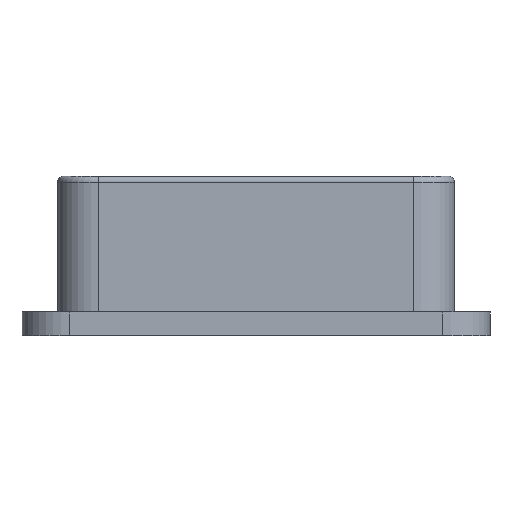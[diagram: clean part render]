
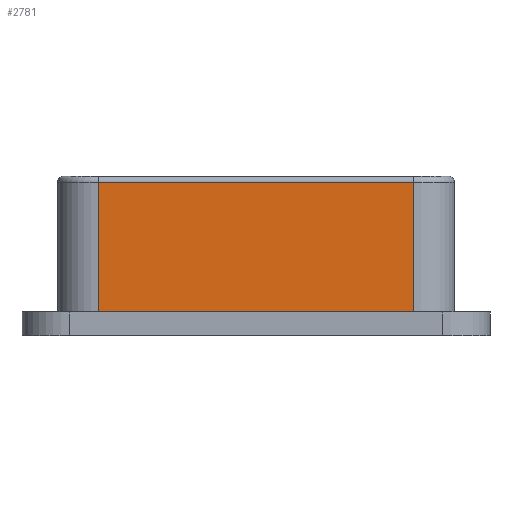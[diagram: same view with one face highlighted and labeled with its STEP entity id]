
A CAD part, front view. The second image highlights one B-rep face of the part: STEP entity #2781.
In plain terms, the highlighted planar face has unit normal (0, -1, 0).
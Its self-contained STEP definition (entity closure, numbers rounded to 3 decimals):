
#771 = PLANE('',#772);
#772 = AXIS2_PLACEMENT_3D('',#773,#774,#775);
#773 = CARTESIAN_POINT('',(-13.8,-8.8,14.8));
#774 = DIRECTION('',(0.,0.,1.));
#775 = DIRECTION('',(1.,0.,0.));
#1272 = VERTEX_POINT('',#1273);
#1273 = CARTESIAN_POINT('',(9.3,-6.7,14.8));
#1288 = CYLINDRICAL_SURFACE('',#1289,2.4);
#1289 = AXIS2_PLACEMENT_3D('',#1290,#1291,#1292);
#1290 = CARTESIAN_POINT('',(9.3,-4.3,13.4));
#1291 = DIRECTION('',(0.,0.,1.));
#1292 = DIRECTION('',(1.,0.,-0.));
#1300 = EDGE_CURVE('',#1301,#1272,#1303,.T.);
#1301 = VERTEX_POINT('',#1302);
#1302 = CARTESIAN_POINT('',(-9.3,-6.7,14.8));
#1303 = SURFACE_CURVE('',#1304,(#1308,#1314),.PCURVE_S1.);
#1304 = LINE('',#1305,#1306);
#1305 = CARTESIAN_POINT('',(-12.75,-6.7,14.8));
#1306 = VECTOR('',#1307,1.);
#1307 = DIRECTION('',(1.,0.,0.));
#1308 = PCURVE('',#771,#1309);
#1309 = DEFINITIONAL_REPRESENTATION('',(#1310),#1313);
#1310 = B_SPLINE_CURVE_WITH_KNOTS('',1,(#1311,#1312),.UNSPECIFIED.,.F.,
  .F.,(2,2),(3.45,22.05),.PIECEWISE_BEZIER_KNOTS.);
#1311 = CARTESIAN_POINT('',(4.5,2.1));
#1312 = CARTESIAN_POINT('',(23.1,2.1));
#1313 = ( GEOMETRIC_REPRESENTATION_CONTEXT(2) 
PARAMETRIC_REPRESENTATION_CONTEXT() REPRESENTATION_CONTEXT('2D SPACE',''
  ) );
#1314 = PCURVE('',#1315,#1320);
#1315 = PLANE('',#1316);
#1316 = AXIS2_PLACEMENT_3D('',#1317,#1318,#1319);
#1317 = CARTESIAN_POINT('',(-11.7,-6.7,13.4));
#1318 = DIRECTION('',(0.,1.,0.));
#1319 = DIRECTION('',(0.,0.,1.));
#1320 = DEFINITIONAL_REPRESENTATION('',(#1321),#1324);
#1321 = B_SPLINE_CURVE_WITH_KNOTS('',1,(#1322,#1323),.UNSPECIFIED.,.F.,
  .F.,(2,2),(3.45,22.05),.PIECEWISE_BEZIER_KNOTS.);
#1322 = CARTESIAN_POINT('',(1.4,2.4));
#1323 = CARTESIAN_POINT('',(1.4,21.));
#1324 = ( GEOMETRIC_REPRESENTATION_CONTEXT(2) 
PARAMETRIC_REPRESENTATION_CONTEXT() REPRESENTATION_CONTEXT('2D SPACE',''
  ) );
#1341 = CYLINDRICAL_SURFACE('',#1342,2.4);
#1342 = AXIS2_PLACEMENT_3D('',#1343,#1344,#1345);
#1343 = CARTESIAN_POINT('',(-9.3,-4.3,13.4));
#1344 = DIRECTION('',(0.,0.,1.));
#1345 = DIRECTION('',(-1.,-0.,0.));
#1755 = VERTEX_POINT('',#1756);
#1756 = CARTESIAN_POINT('',(9.3,-6.7,22.45));
#1794 = CYLINDRICAL_SURFACE('',#1795,0.35);
#1795 = AXIS2_PLACEMENT_3D('',#1796,#1797,#1798);
#1796 = CARTESIAN_POINT('',(9.3,-6.35,22.45));
#1797 = DIRECTION('',(-1.,-0.,-0.));
#1798 = DIRECTION('',(0.,-1.,0.));
#1859 = VERTEX_POINT('',#1860);
#1860 = CARTESIAN_POINT('',(-9.3,-6.7,22.45));
#1885 = EDGE_CURVE('',#1755,#1859,#1886,.T.);
#1886 = SURFACE_CURVE('',#1887,(#1891,#1898),.PCURVE_S1.);
#1887 = LINE('',#1888,#1889);
#1888 = CARTESIAN_POINT('',(9.3,-6.7,22.45));
#1889 = VECTOR('',#1890,1.);
#1890 = DIRECTION('',(-1.,-0.,-0.));
#1891 = PCURVE('',#1794,#1892);
#1892 = DEFINITIONAL_REPRESENTATION('',(#1893),#1897);
#1893 = LINE('',#1894,#1895);
#1894 = CARTESIAN_POINT('',(0.,0.));
#1895 = VECTOR('',#1896,1.);
#1896 = DIRECTION('',(0.,1.));
#1897 = ( GEOMETRIC_REPRESENTATION_CONTEXT(2) 
PARAMETRIC_REPRESENTATION_CONTEXT() REPRESENTATION_CONTEXT('2D SPACE',''
  ) );
#1898 = PCURVE('',#1315,#1899);
#1899 = DEFINITIONAL_REPRESENTATION('',(#1900),#1904);
#1900 = LINE('',#1901,#1902);
#1901 = CARTESIAN_POINT('',(9.05,21.));
#1902 = VECTOR('',#1903,1.);
#1903 = DIRECTION('',(-0.,-1.));
#1904 = ( GEOMETRIC_REPRESENTATION_CONTEXT(2) 
PARAMETRIC_REPRESENTATION_CONTEXT() REPRESENTATION_CONTEXT('2D SPACE',''
  ) );
#2760 = EDGE_CURVE('',#1272,#1755,#2761,.T.);
#2761 = SURFACE_CURVE('',#2762,(#2766,#2773),.PCURVE_S1.);
#2762 = LINE('',#2763,#2764);
#2763 = CARTESIAN_POINT('',(9.3,-6.7,13.4));
#2764 = VECTOR('',#2765,1.);
#2765 = DIRECTION('',(0.,0.,1.));
#2766 = PCURVE('',#1288,#2767);
#2767 = DEFINITIONAL_REPRESENTATION('',(#2768),#2772);
#2768 = LINE('',#2769,#2770);
#2769 = CARTESIAN_POINT('',(-1.571,0.));
#2770 = VECTOR('',#2771,1.);
#2771 = DIRECTION('',(-0.,1.));
#2772 = ( GEOMETRIC_REPRESENTATION_CONTEXT(2) 
PARAMETRIC_REPRESENTATION_CONTEXT() REPRESENTATION_CONTEXT('2D SPACE',''
  ) );
#2773 = PCURVE('',#1315,#2774);
#2774 = DEFINITIONAL_REPRESENTATION('',(#2775),#2779);
#2775 = LINE('',#2776,#2777);
#2776 = CARTESIAN_POINT('',(0.,21.));
#2777 = VECTOR('',#2778,1.);
#2778 = DIRECTION('',(1.,0.));
#2779 = ( GEOMETRIC_REPRESENTATION_CONTEXT(2) 
PARAMETRIC_REPRESENTATION_CONTEXT() REPRESENTATION_CONTEXT('2D SPACE',''
  ) );
#2781 = ADVANCED_FACE('',(#2782),#1315,.F.);
#2782 = FACE_BOUND('',#2783,.F.);
#2783 = EDGE_LOOP('',(#2784,#2785,#2806,#2807));
#2784 = ORIENTED_EDGE('',*,*,#1300,.F.);
#2785 = ORIENTED_EDGE('',*,*,#2786,.T.);
#2786 = EDGE_CURVE('',#1301,#1859,#2787,.T.);
#2787 = SURFACE_CURVE('',#2788,(#2792,#2799),.PCURVE_S1.);
#2788 = LINE('',#2789,#2790);
#2789 = CARTESIAN_POINT('',(-9.3,-6.7,13.4));
#2790 = VECTOR('',#2791,1.);
#2791 = DIRECTION('',(0.,0.,1.));
#2792 = PCURVE('',#1315,#2793);
#2793 = DEFINITIONAL_REPRESENTATION('',(#2794),#2798);
#2794 = LINE('',#2795,#2796);
#2795 = CARTESIAN_POINT('',(0.,2.4));
#2796 = VECTOR('',#2797,1.);
#2797 = DIRECTION('',(1.,0.));
#2798 = ( GEOMETRIC_REPRESENTATION_CONTEXT(2) 
PARAMETRIC_REPRESENTATION_CONTEXT() REPRESENTATION_CONTEXT('2D SPACE',''
  ) );
#2799 = PCURVE('',#1341,#2800);
#2800 = DEFINITIONAL_REPRESENTATION('',(#2801),#2805);
#2801 = LINE('',#2802,#2803);
#2802 = CARTESIAN_POINT('',(1.571,0.));
#2803 = VECTOR('',#2804,1.);
#2804 = DIRECTION('',(0.,1.));
#2805 = ( GEOMETRIC_REPRESENTATION_CONTEXT(2) 
PARAMETRIC_REPRESENTATION_CONTEXT() REPRESENTATION_CONTEXT('2D SPACE',''
  ) );
#2806 = ORIENTED_EDGE('',*,*,#1885,.F.);
#2807 = ORIENTED_EDGE('',*,*,#2760,.F.);
